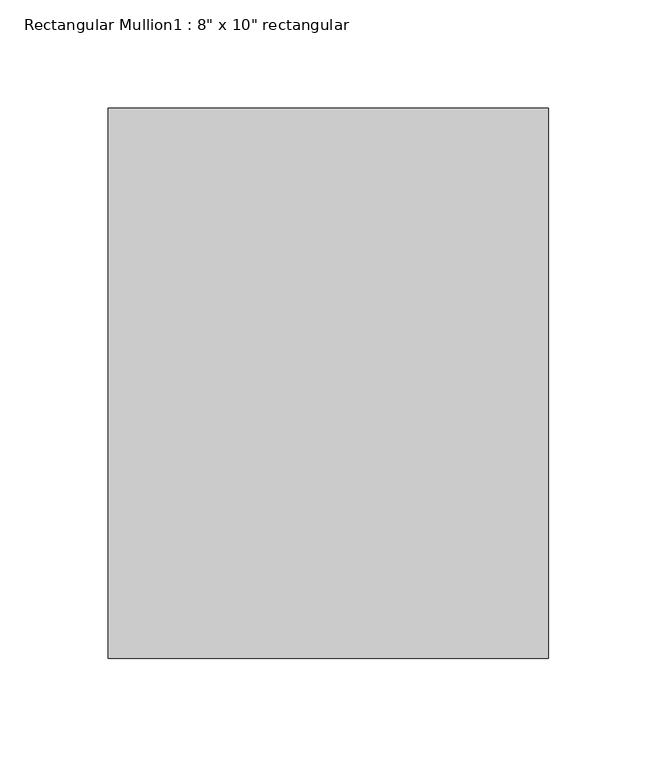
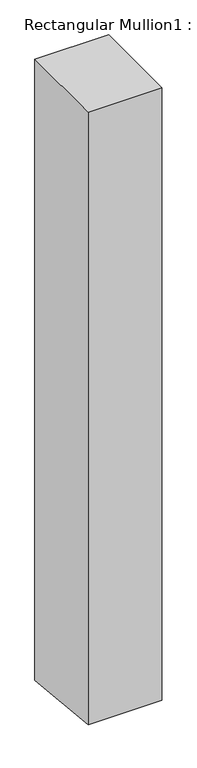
"""IFC4 building model written with IfcOpenShell, lengths in millimetres: member geometry."""

from ifc_helpers import new_model, si_unit, frame, origin, place, context, project, spatial, polyline, outline, extrude, source, transform, mapped, element, save


def member_7751821a(model_context):
    return source(origin(), model_context, "Body", "SweptSolid", [
        extrude(outline(polyline([(-127.0, 0.0), (127.0, 0.0), (127.0, -1809.0434772), (-127.0, -1785.0565228), (-127.0, 0.0)])), frame((-101.6, 0.0, 0.0), z_axis=(1.0, 0.0, 0.0), x_axis=(0.0, 1.0, 0.0)), (0.0, 0.0, 1.0), 203.2),
    ])


if __name__ == "__main__":
    model = new_model("IFC4")
    model_context = context("Model", 3, world=origin())
    ifc_project = project(units=[si_unit("LENGTHUNIT", "METRE", prefix="MILLI")], contexts=[model_context])
    site = spatial("IfcSite", under=ifc_project)
    building = spatial("IfcBuilding", under=site)
    placement = place(None, origin())
    member_shape = member_7751821a(model_context)
    element("IfcMember", 1, ObjectType="Rectangular Mullion1 : 8\" x 10\" rectangular", at=placement, inside=building, context=model_context, shape_type="MappedRepresentation", body=[
        mapped(member_shape, transform((0.0, 0.0, 0.0), x_axis=(1.0, 0.0, 0.0), y_axis=(0.0, 1.0, 0.0), z_axis=(0.0, 0.0, 1.0))),
    ])
    save(model, "model.ifc")
